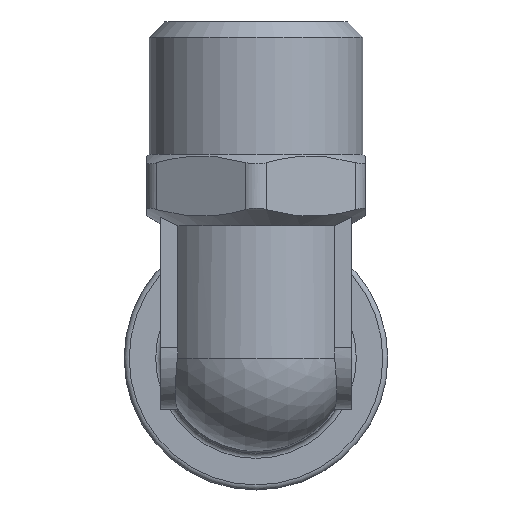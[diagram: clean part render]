
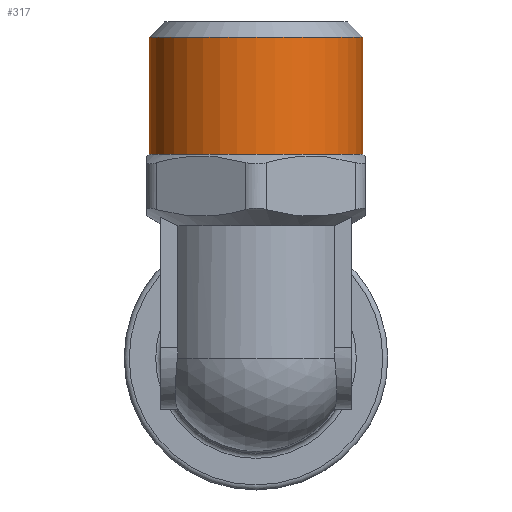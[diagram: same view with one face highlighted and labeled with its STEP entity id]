
A CAD part, front view. The second image highlights one B-rep face of the part: STEP entity #317.
In plain terms, the highlighted cylindrical face has radius 10.477 mm (diameter 20.955 mm), a full revolution.
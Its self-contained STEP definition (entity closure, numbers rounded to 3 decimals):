
#317=ADVANCED_FACE('',(#2313,#2315),#2317,.T.);
#2313=FACE_OUTER_BOUND('',#2314,.T.);
#2314=EDGE_LOOP('',(#4739));
#2315=FACE_OUTER_BOUND('',#2316,.T.);
#2316=EDGE_LOOP('',(#4740));
#2317=CYLINDRICAL_SURFACE('',#2318,10.478);
#2318=AXIS2_PLACEMENT_3D('',#2319,#2320,#2321);
#2319=CARTESIAN_POINT('',(0.,0.,20.));
#2320=DIRECTION('',(0.,0.,1.));
#2321=DIRECTION('',(1.,0.,0.));
#4739=ORIENTED_EDGE('',*,*,#5632,.F.);
#4740=ORIENTED_EDGE('',*,*,#5627,.T.);
#5627=EDGE_CURVE('',#6978,#6978,#6979,.T.);
#5632=EDGE_CURVE('',#6988,#6988,#6989,.T.);
#6978=VERTEX_POINT('',#11476);
#6979=CIRCLE('',#11477,10.478);
#6988=VERTEX_POINT('',#11498);
#6989=CIRCLE('',#11499,10.478);
#11476=CARTESIAN_POINT('',(10.478,0.,20.));
#11477=AXIS2_PLACEMENT_3D('',#11478,#11479,#11480);
#11478=CARTESIAN_POINT('',(0.,0.,20.));
#11479=DIRECTION('',(0.,0.,1.));
#11480=DIRECTION('',(1.,0.,0.));
#11498=CARTESIAN_POINT('',(10.478,0.,31.5));
#11499=AXIS2_PLACEMENT_3D('',#11500,#11501,#11502);
#11500=CARTESIAN_POINT('',(0.,0.,31.5));
#11501=DIRECTION('',(0.,0.,1.));
#11502=DIRECTION('',(1.,0.,0.));
